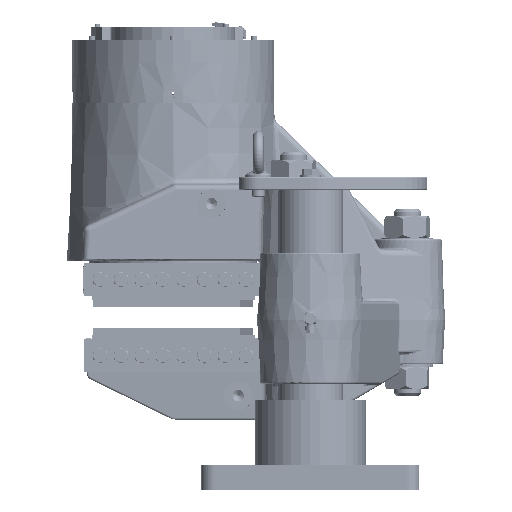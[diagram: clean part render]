
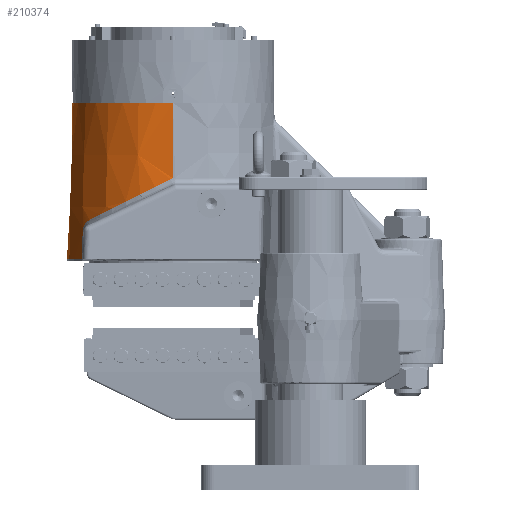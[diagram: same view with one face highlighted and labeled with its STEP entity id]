
A CAD part, left-side view. The second image highlights one B-rep face of the part: STEP entity #210374.
In plain terms, the highlighted conical face has half-angle 2 degrees and reference radius 159.4 mm.
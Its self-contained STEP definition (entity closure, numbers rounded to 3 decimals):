
#197718=CARTESIAN_POINT('',(83.911,-351.431,
354.998));
#197719=CARTESIAN_POINT('',(83.907,-351.433,
354.999));
#197720=CARTESIAN_POINT('',(83.898,-351.438,
354.999));
#197721=CARTESIAN_POINT('',(83.885,-351.446,
355.));
#197722=CARTESIAN_POINT('',(83.877,-351.451,
355.));
#197723=CARTESIAN_POINT('',(83.873,-351.454,
355.));
#199598=CARTESIAN_POINT('',(-83.911,-351.431,
354.998));
#200476=DIRECTION('',(0.035,0.,0.999));
#200477=VECTOR('',#200476,115.946);
#200478=CARTESIAN_POINT('',(-159.256,-211.,
479.124));
#200479=LINE('',#200478,#200477);
#200489=CARTESIAN_POINT('',(-159.256,-211.,
479.124));
#200549=CARTESIAN_POINT('',(159.256,-211.,
479.124));
#200568=CARTESIAN_POINT('',(0.,-211.,595.));
#200569=DIRECTION('',(0.,0.,1.));
#200570=DIRECTION('',(-1.,0.,0.));
#200571=AXIS2_PLACEMENT_3D('',#200568,#200569,#200570);
#200592=DIRECTION('',(-0.035,0.,0.999));
#200593=VECTOR('',#200592,115.946);
#200594=CARTESIAN_POINT('',(159.256,-211.,
479.124));
#200595=LINE('',#200594,#200593);
#200599=CARTESIAN_POINT('',(159.26,-214.762,
477.728));
#200600=CARTESIAN_POINT('',(159.268,-213.547,
478.339));
#200601=CARTESIAN_POINT('',(159.267,-212.292,478.803));
#200602=CARTESIAN_POINT('',(159.256,-211.,
479.124));
#200607=CARTESIAN_POINT('',(98.261,-339.153,
415.202));
#200608=CARTESIAN_POINT('',(102.962,-335.467,
417.053));
#200609=CARTESIAN_POINT('',(111.949,-327.565,
421.022));
#200610=CARTESIAN_POINT('',(124.012,-314.276,
427.698));
#200611=CARTESIAN_POINT('',(134.507,-299.716,
435.014));
#200612=CARTESIAN_POINT('',(143.3,-284.073,
442.876));
#200613=CARTESIAN_POINT('',(150.281,-267.542,
451.185));
#200614=CARTESIAN_POINT('',(155.362,-250.335,
459.837));
#200615=CARTESIAN_POINT('',(158.48,-232.667,
468.721));
#200616=CARTESIAN_POINT('',(159.224,-220.731,
474.725));
#200617=CARTESIAN_POINT('',(159.26,-214.762,
477.728));
#200622=CARTESIAN_POINT('',(83.477,-349.948,
397.823));
#200623=CARTESIAN_POINT('',(83.465,-349.907,
398.996));
#200624=CARTESIAN_POINT('',(83.652,-349.737,
400.418));
#200625=CARTESIAN_POINT('',(84.138,-349.375,
402.058));
#200626=CARTESIAN_POINT('',(84.518,-349.101,
403.104));
#200627=CARTESIAN_POINT('',(85.09,-348.699,
404.341));
#200628=CARTESIAN_POINT('',(85.914,-348.13,
405.735));
#200629=CARTESIAN_POINT('',(87.136,-347.288,
407.437));
#200630=CARTESIAN_POINT('',(88.834,-346.114,
409.3));
#200631=CARTESIAN_POINT('',(91.083,-344.528,
411.223));
#200632=CARTESIAN_POINT('',(94.189,-342.28,
413.351));
#200633=CARTESIAN_POINT('',(96.615,-340.444,
414.554));
#200634=CARTESIAN_POINT('',(98.261,-339.153,
415.202));
#200639=DIRECTION('',(-0.01,0.035,0.999));
#200640=VECTOR('',#200639,42.852);
#200641=CARTESIAN_POINT('',(83.911,-351.431,
354.998));
#200642=LINE('',#200641,#200640);
#200646=CARTESIAN_POINT('',(0.,-211.,355.));
#200647=DIRECTION('',(0.,0.,1.));
#200648=DIRECTION('',(-0.513,-0.859,0.));
#200649=AXIS2_PLACEMENT_3D('',#200646,#200647,#200648);
#200654=CARTESIAN_POINT('',(-83.911,-351.431,
354.998));
#200655=CARTESIAN_POINT('',(-83.907,-351.433,
354.999));
#200656=CARTESIAN_POINT('',(-83.898,-351.438,
354.999));
#200657=CARTESIAN_POINT('',(-83.885,-351.446,
355.));
#200658=CARTESIAN_POINT('',(-83.877,-351.451,
355.));
#200659=CARTESIAN_POINT('',(-83.873,-351.454,
355.));
#200664=DIRECTION('',(-0.01,-0.035,
-0.999));
#200665=VECTOR('',#200664,42.852);
#200666=CARTESIAN_POINT('',(-83.477,-349.948,
397.823));
#200667=LINE('',#200666,#200665);
#200671=CARTESIAN_POINT('',(-98.261,-339.153,
415.202));
#200672=CARTESIAN_POINT('',(-96.615,-340.444,
414.554));
#200673=CARTESIAN_POINT('',(-94.189,-342.28,
413.351));
#200674=CARTESIAN_POINT('',(-91.083,-344.528,
411.223));
#200675=CARTESIAN_POINT('',(-88.834,-346.114,
409.3));
#200676=CARTESIAN_POINT('',(-87.136,-347.288,
407.437));
#200677=CARTESIAN_POINT('',(-85.914,-348.13,
405.735));
#200678=CARTESIAN_POINT('',(-85.09,-348.699,
404.341));
#200679=CARTESIAN_POINT('',(-84.518,-349.101,
403.104));
#200680=CARTESIAN_POINT('',(-84.138,-349.375,
402.058));
#200681=CARTESIAN_POINT('',(-83.652,-349.737,
400.418));
#200682=CARTESIAN_POINT('',(-83.465,-349.907,
398.996));
#200683=CARTESIAN_POINT('',(-83.477,-349.948,
397.823));
#200688=CARTESIAN_POINT('',(-159.26,-214.762,
477.728));
#200689=CARTESIAN_POINT('',(-159.224,-220.731,
474.725));
#200690=CARTESIAN_POINT('',(-158.48,-232.667,
468.721));
#200691=CARTESIAN_POINT('',(-155.362,-250.335,
459.837));
#200692=CARTESIAN_POINT('',(-150.281,-267.542,
451.185));
#200693=CARTESIAN_POINT('',(-143.3,-284.073,
442.876));
#200694=CARTESIAN_POINT('',(-134.507,-299.716,
435.014));
#200695=CARTESIAN_POINT('',(-124.012,-314.276,
427.698));
#200696=CARTESIAN_POINT('',(-111.949,-327.565,
421.022));
#200697=CARTESIAN_POINT('',(-102.962,-335.467,
417.053));
#200698=CARTESIAN_POINT('',(-98.261,-339.153,
415.202));
#200703=CARTESIAN_POINT('',(-159.256,-211.,
479.124));
#200704=CARTESIAN_POINT('',(-159.267,-212.292,478.803));
#200705=CARTESIAN_POINT('',(-159.268,-213.547,
478.339));
#200706=CARTESIAN_POINT('',(-159.26,-214.762,
477.728));
#203157=VERTEX_POINT('',#200549);
#203163=VERTEX_POINT('',#200622);
#203164=VERTEX_POINT('',#200634);
#203193=VERTEX_POINT('',#199598);
#203266=VERTEX_POINT('',#197718);
#203267=VERTEX_POINT('',#197723);
#203340=CARTESIAN_POINT('',(-83.477,-349.948,
397.823));
#203341=VERTEX_POINT('',#203340);
#203568=VERTEX_POINT('',#200671);
#203606=VERTEX_POINT('',#200489);
#203627=VERTEX_POINT('',#200617);
#203691=CARTESIAN_POINT('',(155.21,-211.,595.));
#203692=CARTESIAN_POINT('',(-155.21,-211.,595.));
#203693=VERTEX_POINT('',#203691);
#203694=VERTEX_POINT('',#203692);
#203865=VERTEX_POINT('',#200706);
#203921=CARTESIAN_POINT('',(-83.873,-351.454,355.));
#203922=VERTEX_POINT('',#203921);
#210351=CARTESIAN_POINT('',(0.,-211.,474.999));
#210352=DIRECTION('',(0.,0.,-1.));
#210353=DIRECTION('',(-1.,0.,0.));
#210354=AXIS2_PLACEMENT_3D('',#210351,#210352,#210353);
#210355=CONICAL_SURFACE('',#210354,159.4,2.);
#210356=ORIENTED_EDGE('',*,*,#210315,.F.);
#210357=ORIENTED_EDGE('',*,*,#205602,.F.);
#210358=ORIENTED_EDGE('',*,*,#205699,.F.);
#210359=ORIENTED_EDGE('',*,*,#205808,.F.);
#210360=ORIENTED_EDGE('',*,*,#205850,.F.);
#210361=ORIENTED_EDGE('',*,*,#205892,.T.);
#210362=ORIENTED_EDGE('',*,*,#205920,.F.);
#210363=ORIENTED_EDGE('',*,*,#205968,.F.);
#210364=ORIENTED_EDGE('',*,*,#208746,.F.);
#210365=ORIENTED_EDGE('',*,*,#208855,.F.);
#210367=ORIENTED_EDGE('',*,*,#210366,.F.);
#210369=ORIENTED_EDGE('',*,*,#210368,.F.);
#210370=ORIENTED_EDGE('',*,*,#210299,.T.);
#210371=ORIENTED_EDGE('',*,*,#210333,.T.);
#210372=EDGE_LOOP('',(#210356,#210357,#210358,#210359,#210360,#210361,#210362,
#210363,#210364,#210365,#210367,#210369,#210370,#210371));
#210373=FACE_OUTER_BOUND('',#210372,.F.);
#210374=ADVANCED_FACE('',(#210373),#210355,.T.);
#197724=B_SPLINE_CURVE_WITH_KNOTS('',3,(#197718,#197719,#197720,#197721,#197722,
#197723),.UNSPECIFIED.,.F.,.F.,(4,1,1,4),(0.,0.333,
0.667,1.),.UNSPECIFIED.);
#200572=CIRCLE('',#200571,155.21);
#200603=B_SPLINE_CURVE_WITH_KNOTS('',3,(#200599,#200600,#200601,#200602),
.UNSPECIFIED.,.F.,.F.,(4,4),(0.,1.),.UNSPECIFIED.);
#200618=B_SPLINE_CURVE_WITH_KNOTS('',3,(#200607,#200608,#200609,#200610,#200611,
#200612,#200613,#200614,#200615,#200616,#200617),.UNSPECIFIED.,.F.,.F.,(4,1,1,1,
1,1,1,1,4),(0.,0.125,0.25,0.375,0.5,0.625,0.75,0.875,1.),
.UNSPECIFIED.);
#200635=B_SPLINE_CURVE_WITH_KNOTS('',3,(#200622,#200623,#200624,#200625,#200626,
#200627,#200628,#200629,#200630,#200631,#200632,#200633,#200634),.UNSPECIFIED.,
.F.,.F.,(4,1,1,1,1,1,1,1,1,1,4),(0.,0.125,0.156,0.188,0.25,
0.313,0.375,0.5,0.625,0.75,1.),.UNSPECIFIED.);
#200650=CIRCLE('',#200649,163.591);
#200660=B_SPLINE_CURVE_WITH_KNOTS('',3,(#200654,#200655,#200656,#200657,#200658,
#200659),.UNSPECIFIED.,.F.,.F.,(4,1,1,4),(0.,0.333,
0.667,1.),.UNSPECIFIED.);
#200684=B_SPLINE_CURVE_WITH_KNOTS('',3,(#200671,#200672,#200673,#200674,#200675,
#200676,#200677,#200678,#200679,#200680,#200681,#200682,#200683),.UNSPECIFIED.,
.F.,.F.,(4,1,1,1,1,1,1,1,1,1,4),(0.,0.25,0.375,0.5,0.625,0.688,
0.75,0.813,0.844,0.875,1.),.UNSPECIFIED.);
#200699=B_SPLINE_CURVE_WITH_KNOTS('',3,(#200688,#200689,#200690,#200691,#200692,
#200693,#200694,#200695,#200696,#200697,#200698),.UNSPECIFIED.,.F.,.F.,(4,1,1,1,
1,1,1,1,4),(0.,0.125,0.25,0.375,0.5,0.625,0.75,0.875,1.),
.UNSPECIFIED.);
#200707=B_SPLINE_CURVE_WITH_KNOTS('',3,(#200703,#200704,#200705,#200706),
.UNSPECIFIED.,.F.,.F.,(4,4),(0.,1.),.UNSPECIFIED.);
#205602=EDGE_CURVE('',#203627,#203157,#200603,.T.);
#205699=EDGE_CURVE('',#203164,#203627,#200618,.T.);
#205808=EDGE_CURVE('',#203163,#203164,#200635,.T.);
#205850=EDGE_CURVE('',#203266,#203163,#200642,.T.);
#205892=EDGE_CURVE('',#203266,#203267,#197724,.T.);
#205920=EDGE_CURVE('',#203922,#203267,#200650,.T.);
#205968=EDGE_CURVE('',#203193,#203922,#200660,.T.);
#208746=EDGE_CURVE('',#203341,#203193,#200667,.T.);
#208855=EDGE_CURVE('',#203568,#203341,#200684,.T.);
#210299=EDGE_CURVE('',#203606,#203694,#200479,.T.);
#210315=EDGE_CURVE('',#203157,#203693,#200595,.T.);
#210333=EDGE_CURVE('',#203694,#203693,#200572,.T.);
#210366=EDGE_CURVE('',#203865,#203568,#200699,.T.);
#210368=EDGE_CURVE('',#203606,#203865,#200707,.T.);
